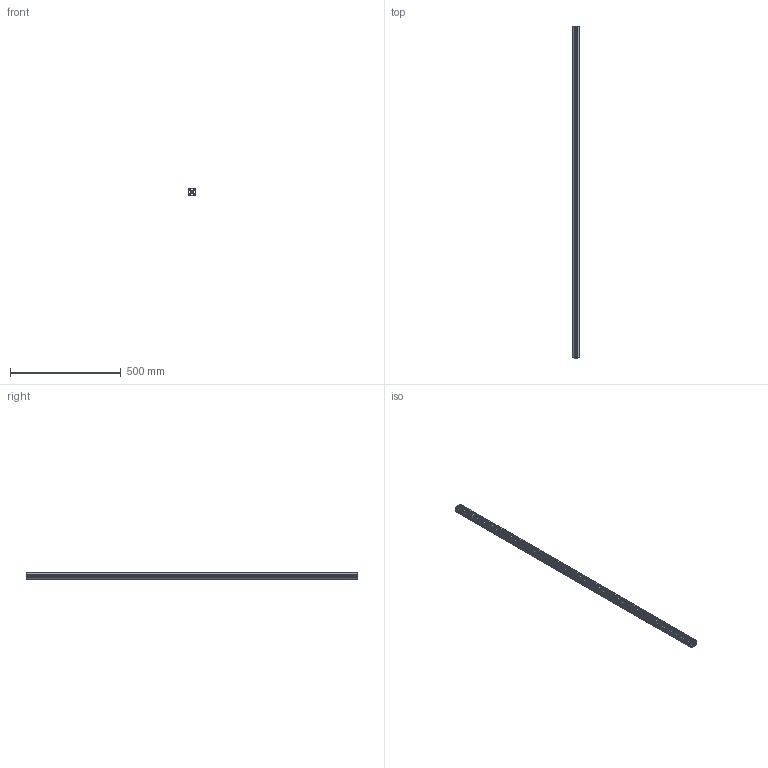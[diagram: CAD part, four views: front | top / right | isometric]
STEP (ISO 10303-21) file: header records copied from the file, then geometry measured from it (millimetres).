
FILE_DESCRIPTION (( 'STEP AP214' ), '1' );
FILE_NAME ('PEP3636-1500.STEP', '2022-12-12T03:47:21', ( '' ), ( '' ), 'SwSTEP 2.0', 'SolidWorks 2018', '' );
FILE_SCHEMA (( 'AUTOMOTIVE_DESIGN' ));
Length unit declared in the file: millimetre
Products named in the file (1): PEP3636-1500
Bounding box: 36 x 1500 x 36 mm (x, y, z)
Volume: 720207.3 mm3; surface area: 667243 mm2
Topology: 1 solids, 1 shells, 239 faces, 711 edges, 474 vertices
Faces by surface type: plane 122, cylinder 117
Entity records: 8133 total; most frequent: CARTESIAN_POINT 1425, DIRECTION 1425, ORIENTED_EDGE 1422, EDGE_CURVE 711, LINE 477, VECTOR 477, AXIS2_PLACEMENT_3D 474, VERTEX_POINT 474
